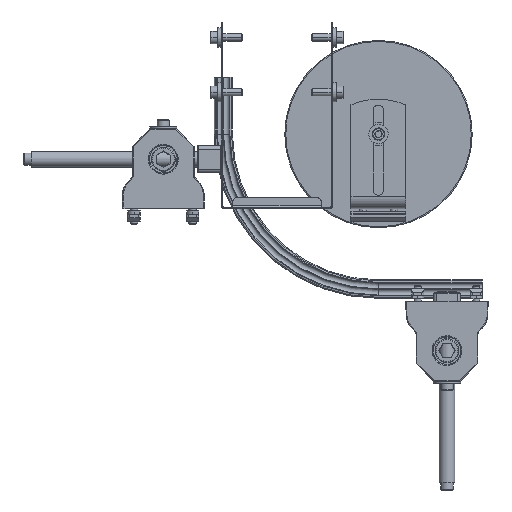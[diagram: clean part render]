
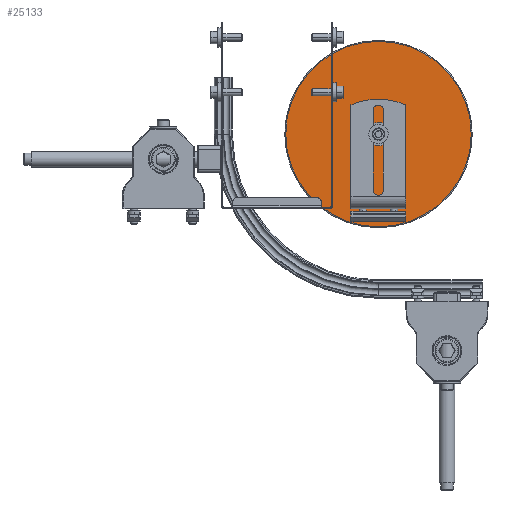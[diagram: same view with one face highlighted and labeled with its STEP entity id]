
A CAD part, front view. The second image highlights one B-rep face of the part: STEP entity #25133.
In plain terms, the highlighted planar face has unit normal (0, -1, 0) as drawn and (0, 1, 0) by its records, which use the part's own axes.
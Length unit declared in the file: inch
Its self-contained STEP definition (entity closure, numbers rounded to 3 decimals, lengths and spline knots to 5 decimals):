
#953 = ORIENTED_EDGE ( 'NONE', *, *, #37745, .F. ) ;
#1106 = VERTEX_POINT ( 'NONE', #20066 ) ;
#2206 = CARTESIAN_POINT ( 'NONE',  ( 0., 0.405, 0. ) ) ;
#2348 = DIRECTION ( 'NONE',  ( 0., 1., 0. ) ) ;
#4537 = AXIS2_PLACEMENT_3D ( 'NONE', #6708, #38096, #13456 ) ;
#5684 = CARTESIAN_POINT ( 'NONE',  ( 0., 0.405, 0. ) ) ;
#6080 = DIRECTION ( 'NONE',  ( 0., 1., 0. ) ) ;
#6708 = CARTESIAN_POINT ( 'NONE',  ( 0., 0.405, 0. ) ) ;
#8162 = DIRECTION ( 'NONE',  ( 0., 1., 0. ) ) ;
#8294 = AXIS2_PLACEMENT_3D ( 'NONE', #26310, #8162, #32665 ) ;
#8909 = VERTEX_POINT ( 'NONE', #29950 ) ;
#10196 = AXIS2_PLACEMENT_3D ( 'NONE', #5684, #6080, #18153 ) ;
#11027 = VERTEX_POINT ( 'NONE', #36545 ) ;
#12143 = CIRCLE ( 'NONE', #10196, 2.97 ) ;
#13131 = DIRECTION ( 'NONE',  ( 0., 0., 1. ) ) ;
#13456 = DIRECTION ( 'NONE',  ( 0., 0., 1. ) ) ;
#13814 = CIRCLE ( 'NONE', #16967, 0.2525 ) ;
#16155 = PLANE ( 'NONE',  #4537 ) ;
#16967 = AXIS2_PLACEMENT_3D ( 'NONE', #34823, #31690, #13131 ) ;
#18153 = DIRECTION ( 'NONE',  ( 0., 0., 1. ) ) ;
#19335 = CIRCLE ( 'NONE', #32686, 0.2525 ) ;
#20066 = CARTESIAN_POINT ( 'NONE',  ( 0., 0.405, 0.2525 ) ) ;
#22503 = FACE_BOUND ( 'NONE', #34440, .T. ) ;
#23838 = ORIENTED_EDGE ( 'NONE', *, *, #28067, .T. ) ;
#23886 = DIRECTION ( 'NONE',  ( 0., 0., 1. ) ) ;
#25133 = ADVANCED_FACE ( 'NONE', ( #30755, #22503 ), #16155, .T. ) ;
#25208 = VERTEX_POINT ( 'NONE', #38772 ) ;
#26197 = ORIENTED_EDGE ( 'NONE', *, *, #34303, .F. ) ;
#26310 = CARTESIAN_POINT ( 'NONE',  ( 0., 0.405, 0. ) ) ;
#27826 = EDGE_LOOP ( 'NONE', ( #39395, #23838 ) ) ;
#28067 = EDGE_CURVE ( 'NONE', #25208, #8909, #12143, .T. ) ;
#29950 = CARTESIAN_POINT ( 'NONE',  ( 0., 0.405, 2.97 ) ) ;
#30755 = FACE_OUTER_BOUND ( 'NONE', #27826, .T. ) ;
#31690 = DIRECTION ( 'NONE',  ( 0., 1., 0. ) ) ;
#32665 = DIRECTION ( 'NONE',  ( 0., 0., 1. ) ) ;
#32686 = AXIS2_PLACEMENT_3D ( 'NONE', #2206, #2348, #23886 ) ;
#34303 = EDGE_CURVE ( 'NONE', #1106, #11027, #19335, .T. ) ;
#34440 = EDGE_LOOP ( 'NONE', ( #26197, #953 ) ) ;
#34823 = CARTESIAN_POINT ( 'NONE',  ( 0., 0.405, 0. ) ) ;
#36545 = CARTESIAN_POINT ( 'NONE',  ( 0., 0.405, -0.2525 ) ) ;
#37745 = EDGE_CURVE ( 'NONE', #11027, #1106, #13814, .T. ) ;
#38096 = DIRECTION ( 'NONE',  ( 0., 1., 0. ) ) ;
#38404 = CIRCLE ( 'NONE', #8294, 2.97 ) ;
#38772 = CARTESIAN_POINT ( 'NONE',  ( 0., 0.405, -2.97 ) ) ;
#39395 = ORIENTED_EDGE ( 'NONE', *, *, #39726, .T. ) ;
#39726 = EDGE_CURVE ( 'NONE', #8909, #25208, #38404, .T. ) ;
